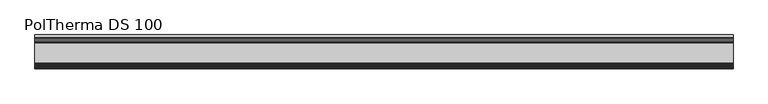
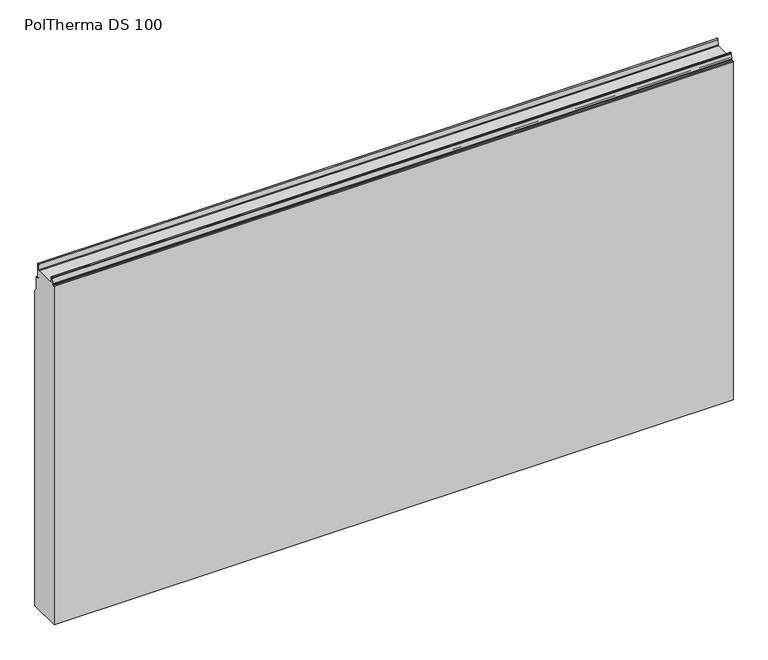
"""IFC4 building model written with IfcOpenShell, lengths in millimetres: plate geometry, Europanels_Poltherma DS_Hz : PolTherma DS 100."""

from ifc_helpers import new_model, si_unit, frame, origin, place, context, project, spatial, polyline, circle_curve, source, transform, mapped, element, save
from ifc_brep_helpers import plane_surface, cylinder_surface, revolved_surface, advanced_brep


def poltherma_ds_100_98c2bc51(model_context):
    return source(origin(), model_context, "Body", "AdvancedBrep", [
        advanced_brep(
        [(1025.0, 50.0, 0.0), (1025.0, 50.0, 1006.0403652), (1025.0, 41.9993224, 1014.5306815), (1025.0, 41.9993224, 1053.783709), (1025.0, 39.5003388, 1056.2826927), (1025.0, 36.4964005, 1056.2826927), (1025.0, 33.9927587, 1058.7863345), (1025.0, 33.9927587, 1102.0320728), (1025.0, 31.7320949, 1104.2927366), (1025.0, 29.3625931, 1102.12865), (1025.0, 28.6828547, 1085.5928147), (1025.0, 26.3196392, 1083.2879082), (1025.0, -31.7227962, 1081.7845566), (1025.0, -33.7207985, 1083.6951741), (1025.0, -34.4459609, 1099.8739391), (1025.0, -36.4439626, 1101.784556), (1025.0, -39.1932037, 1101.784556), (1025.0, -41.1890147, 1099.9139331), (1025.0, -42.2429781, 1083.6551788), (1025.0, -44.2387891, 1081.784556), (1025.0, -48.0, 1081.784556), (1025.0, -50.0, 1079.784556), (1025.0, -50.0, 0.0), (-1025.0, 50.0, 0.0), (-1025.0, -50.0, 0.0), (-1025.0, -50.0, 1079.784556), (-1025.0, -48.0, 1081.784556), (-1025.0, -44.2387891, 1081.784556), (-1025.0, -42.2429781, 1083.6551788), (-1025.0, -41.1890147, 1099.9139331), (-1025.0, -39.1932037, 1101.784556), (-1025.0, -36.4439626, 1101.784556), (-1025.0, -34.4459609, 1099.8739391), (-1025.0, -33.7221833, 1083.6951728), (-1025.0, -31.7227962, 1081.7845566), (-1025.0, 26.3196392, 1083.2879082), (-1025.0, 28.6828547, 1085.5928147), (-1025.0, 29.3363956, 1102.1234406), (-1025.0, 31.7320949, 1104.2927366), (-1025.0, 33.9927587, 1102.0320728), (-1025.0, 33.9927587, 1058.7863345), (-1025.0, 36.4964005, 1056.2826927), (-1025.0, 39.5003388, 1056.2826927), (-1025.0, 41.9993224, 1053.783709), (-1025.0, 41.9993224, 1014.5306815), (-1025.0, 50.0, 1006.0403652)],
        [
            (0, 1),
            (1, 2),
            (2, 3),
            (3, 4, circle_curve(frame((1025.0, 39.5003388, 1053.783709), z_axis=(1.0, 0.0, 0.0), x_axis=(0.0, 1.0, 0.0)), 2.4989837)),
            (4, 5),
            (5, 6, circle_curve(frame((1025.0, 36.4964005, 1058.7863345), z_axis=(-1.0, 0.0, 0.0), x_axis=(0.0, 1.0, 0.0)), 2.5036418)),
            (6, 7),
            (7, 8, circle_curve(frame((1025.0, 31.7320949, 1102.0320728), z_axis=(1.0, 0.0, 0.0), x_axis=(0.0, 1.0, 0.0)), 2.2606638)),
            (8, 9, circle_curve(frame((1025.0, 31.6169847, 1102.0395223), z_axis=(1.0, 0.0, 0.0), x_axis=(0.0, 1.0, 0.0)), 2.2561527)),
            (9, 10),
            (10, 11, circle_curve(frame((1025.0, 26.1902185, 1085.784556), z_axis=(-1.0, 0.0, 0.0), x_axis=(0.0, 1.0, 0.0)), 2.5)),
            (11, 12),
            (12, 13, circle_curve(frame((1025.0, -31.7227962, 1083.7845572), z_axis=(-1.0, 0.0, 0.0), x_axis=(0.0, 1.0, 0.0)), 2.0000006)),
            (13, 14),
            (14, 15, circle_curve(frame((1025.0, -36.4439626, 1099.784556), z_axis=(1.0, 0.0, 0.0), x_axis=(0.0, 1.0, 0.0)), 2.0)),
            (15, 16),
            (16, 17, circle_curve(frame((1025.0, -39.1932037, 1099.784556), z_axis=(1.0, 0.0, 0.0), x_axis=(0.0, 1.0, 0.0)), 2.0)),
            (17, 18),
            (18, 19, circle_curve(frame((1025.0, -44.2387891, 1083.784556), z_axis=(-1.0, 0.0, 0.0), x_axis=(0.0, 1.0, 0.0)), 2.0)),
            (19, 20),
            (20, 21, circle_curve(frame((1025.0, -48.0, 1079.784556), z_axis=(1.0, 0.0, 0.0), x_axis=(0.0, 1.0, 0.0)), 2.0)),
            (21, 22),
            (22, 0),
            (23, 24),
            (24, 25),
            (25, 26, circle_curve(frame((-1025.0, -48.0, 1079.784556), z_axis=(-1.0, 0.0, 0.0), x_axis=(0.0, 1.0, 0.0)), 2.0)),
            (26, 27),
            (27, 28, circle_curve(frame((-1025.0, -44.2387891, 1083.784556), z_axis=(1.0, 0.0, 0.0), x_axis=(0.0, 1.0, 0.0)), 2.0)),
            (28, 29),
            (29, 30, circle_curve(frame((-1025.0, -39.1932037, 1099.784556), z_axis=(-1.0, 0.0, 0.0), x_axis=(0.0, 1.0, 0.0)), 2.0)),
            (30, 31),
            (31, 32, circle_curve(frame((-1025.0, -36.4439626, 1099.784556), z_axis=(-1.0, 0.0, 0.0), x_axis=(0.0, 1.0, 0.0)), 2.0)),
            (32, 33),
            (33, 34, circle_curve(frame((-1025.0, -31.7227962, 1083.7845572), z_axis=(1.0, 0.0, 0.0), x_axis=(0.0, 1.0, 0.0)), 2.0000006)),
            (34, 35),
            (35, 36, circle_curve(frame((-1025.0, 26.1902185, 1085.784556), z_axis=(1.0, 0.0, 0.0), x_axis=(0.0, 1.0, 0.0)), 2.5)),
            (36, 37),
            (37, 38, circle_curve(frame((-1025.0, 31.6169847, 1102.0395223), z_axis=(-1.0, 0.0, 0.0), x_axis=(0.0, 1.0, 0.0)), 2.2561527)),
            (38, 39, circle_curve(frame((-1025.0, 31.7320949, 1102.0320728), z_axis=(-1.0, 0.0, 0.0), x_axis=(0.0, 1.0, 0.0)), 2.2606638)),
            (39, 40),
            (40, 41, circle_curve(frame((-1025.0, 36.4964005, 1058.7863345), z_axis=(1.0, 0.0, 0.0), x_axis=(0.0, 1.0, 0.0)), 2.5036418)),
            (41, 42),
            (42, 43, circle_curve(frame((-1025.0, 39.5003388, 1053.783709), z_axis=(-1.0, 0.0, 0.0), x_axis=(0.0, 1.0, 0.0)), 2.4989837)),
            (43, 44),
            (44, 45),
            (45, 23),
            (0, 23),
            (45, 1),
            (44, 2),
            (43, 3),
            (42, 4),
            (41, 5),
            (40, 6),
            (39, 7),
            (38, 8),
            (37, 9),
            (36, 10),
            (35, 11),
            (34, 12),
            (33, 13),
            (32, 14),
            (31, 15),
            (30, 16),
            (29, 17),
            (28, 18),
            (27, 19),
            (26, 20),
            (25, 21),
            (24, 22),
        ],
        [
            plane_surface(frame((1025.0, 50.0, 1006.0403652), z_axis=(1.0, 0.0, 0.0), x_axis=(0.0, 0.0, 1.0))),
            plane_surface(frame((-1025.0, 50.0, 1006.0403652), z_axis=(-1.0, 0.0, 0.0), x_axis=(0.0, 0.0, -1.0))),
            plane_surface(frame((1025.0, 50.0, 0.0), z_axis=(0.0, 1.0, 0.0), x_axis=(-1.0, 0.0, 0.0))),
            plane_surface(frame((1025.0, 50.0, 1006.0403652), z_axis=(0.0, 0.7277809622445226, 0.6858096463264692), x_axis=(-1.0, 0.0, 0.0))),
            plane_surface(frame((1025.0, 41.9993224, 1014.5306815), z_axis=(0.0, 1.0, 0.0), x_axis=(-1.0, 0.0, 0.0))),
            cylinder_surface(frame((-1025.0, 39.5003388, 1053.783709), z_axis=(1.0, 0.0, 0.0), x_axis=(0.0, 1.0, 0.0)), 2.4989837),
            plane_surface(frame((1025.0, 39.5003388, 1056.2826927), z_axis=(0.0, 0.0, 1.0), x_axis=(-1.0, 0.0, 0.0))),
            revolved_surface(polyline([(-1025.0, 39.0000423, 1058.7863345), (1025.0, 39.0000423, 1058.7863345)]), (-1025.0, 36.4964005, 1058.7863345), (-1.0, 0.0, 0.0)),
            plane_surface(frame((1025.0, 33.9927587, 1058.7863345), z_axis=(0.0, 1.0, 0.0), x_axis=(-1.0, 0.0, 0.0))),
            cylinder_surface(frame((-1025.0, 31.7320949, 1102.0320728), z_axis=(1.0, 0.0, 0.0), x_axis=(0.0, 1.0, 0.0)), 2.2606638),
            cylinder_surface(frame((-1025.0, 31.6169847, 1102.0395223), z_axis=(1.0, 0.0, 0.0), x_axis=(0.0, 1.0, 0.0)), 2.2561527),
            plane_surface(frame((1025.0, 29.3363956, 1102.1234406), z_axis=(0.0, -0.9992194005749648, 0.03950429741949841), x_axis=(-1.0, 0.0, 0.0))),
            revolved_surface(polyline([(-1025.0, 28.6902185, 1085.784556), (1025.0, 28.6902185, 1085.784556)]), (-1025.0, 26.1902185, 1085.784556), (-1.0, 0.0, 0.0)),
            plane_surface(frame((1025.0, 26.3196392, 1083.2879082), z_axis=(0.0, -0.025892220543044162, 0.999664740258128), x_axis=(-1.0, 0.0, 0.0))),
            revolved_surface(polyline([(-1025.0, -29.7227956, 1083.7845572), (1025.0, -29.7227956, 1083.7845572)]), (-1025.0, -31.7227962, 1083.7845572), (-1.0, 0.0, 0.0)),
            plane_surface(frame((1025.0, -33.7221833, 1083.6951728), z_axis=(0.0, 0.9990008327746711, 0.044691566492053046), x_axis=(-1.0, 0.0, 0.0))),
            cylinder_surface(frame((-1025.0, -36.4439626, 1099.784556), z_axis=(1.0, 0.0, 0.0), x_axis=(0.0, 1.0, 0.0)), 2.0),
            plane_surface(frame((1025.0, -36.4439626, 1101.784556), z_axis=(0.0, 0.0, 1.0), x_axis=(-1.0, 0.0, 0.0))),
            cylinder_surface(frame((-1025.0, -39.1932037, 1099.784556), z_axis=(1.0, 0.0, 0.0), x_axis=(0.0, 1.0, 0.0)), 2.0),
            plane_surface(frame((1025.0, -41.1890147, 1099.9139331), z_axis=(0.0, -0.9979054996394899, 0.06468859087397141), x_axis=(-1.0, 0.0, 0.0))),
            revolved_surface(polyline([(-1025.0, -42.2387891, 1083.784556), (1025.0, -42.2387891, 1083.784556)]), (-1025.0, -44.2387891, 1083.784556), (-1.0, 0.0, 0.0)),
            plane_surface(frame((1025.0, -44.2387891, 1081.784556), z_axis=(0.0, 0.0, 1.0), x_axis=(-1.0, 0.0, 0.0))),
            cylinder_surface(frame((-1025.0, -48.0, 1079.784556), z_axis=(1.0, 0.0, 0.0), x_axis=(0.0, 1.0, 0.0)), 2.0),
            plane_surface(frame((1025.0, -50.0, 1079.784556), z_axis=(0.0, -1.0, 0.0), x_axis=(-1.0, 0.0, 0.0))),
            plane_surface(frame((1025.0, -50.0, 0.0), z_axis=(0.0, 0.0, -1.0), x_axis=(-1.0, 0.0, 0.0))),
        ],
        [
            (0, [[1, 2, 3, 4, 5, 6, 7, 8, 9, 10, 11, 12, 13, 14, 15, 16, 17, 18, 19, 20, 21, 22, 23]]),
            (1, [[24, 25, 26, 27, 28, 29, 30, 31, 32, 33, 34, 35, 36, 37, 38, 39, 40, 41, 42, 43, 44, 45, 46]]),
            (2, [[-1, 47, -46, 48]]),
            (3, [[-2, -48, -45, 49]]),
            (4, [[-3, -49, -44, 50]]),
            (5, [[-4, -50, -43, 51]]),
            (6, [[-5, -51, -42, 52]]),
            (7, [[-6, -52, -41, 53]]),
            (8, [[-7, -53, -40, 54]]),
            (9, [[-8, -54, -39, 55]]),
            (10, [[-9, -55, -38, 56]]),
            (11, [[-10, -56, -37, 57]]),
            (12, [[-11, -57, -36, 58]]),
            (13, [[-12, -58, -35, 59]]),
            (14, [[-13, -59, -34, 60]]),
            (15, [[-14, -60, -33, 61]]),
            (16, [[-15, -61, -32, 62]]),
            (17, [[-16, -62, -31, 63]]),
            (18, [[-17, -63, -30, 64]]),
            (19, [[-18, -64, -29, 65]]),
            (20, [[-19, -65, -28, 66]]),
            (21, [[-20, -66, -27, 67]]),
            (22, [[-21, -67, -26, 68]]),
            (23, [[-22, -68, -25, 69]]),
            (24, [[-23, -69, -24, -47]]),
        ],
    ),
    ])


if __name__ == "__main__":
    model = new_model("IFC4")
    model_context = context("Model", 3, world=origin())
    ifc_project = project(units=[si_unit("LENGTHUNIT", "METRE", prefix="MILLI")], contexts=[model_context])
    site = spatial("IfcSite", under=ifc_project)
    building = spatial("IfcBuilding", under=site)
    placement = place(None, origin())
    poltherma_ds_100_shape = poltherma_ds_100_98c2bc51(model_context)
    element("IfcPlate", 1, ObjectType="Europanels_Poltherma DS_Hz : PolTherma DS 100", at=placement, inside=building, context=model_context, shape_type="MappedRepresentation", body=[
        mapped(poltherma_ds_100_shape, transform((0.0, 0.0, 0.0), x_axis=(1.0, 0.0, 0.0), y_axis=(0.0, 1.0, 0.0), z_axis=(0.0, 0.0, 1.0))),
    ])
    save(model, "model.ifc")
